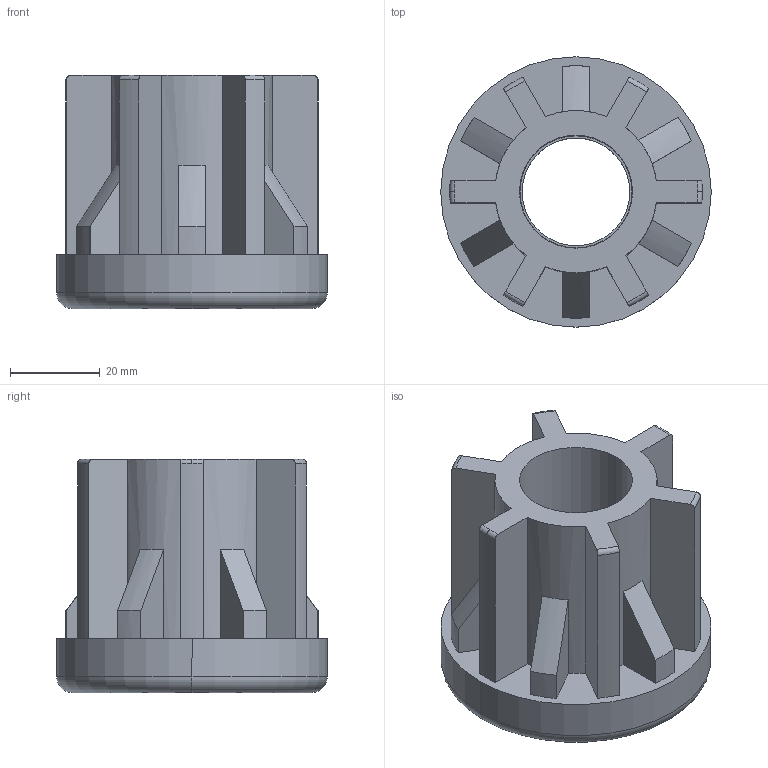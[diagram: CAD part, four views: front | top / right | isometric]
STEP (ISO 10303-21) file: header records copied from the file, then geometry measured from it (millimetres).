
FILE_DESCRIPTION (( 'STEP AP214' ), '1' );
FILE_NAME ('42006460324.STEP', '2020-02-25T17:26:42', ( '' ), ( '' ), 'SwSTEP 2.0', 'SolidWorks 2018', '' );
FILE_SCHEMA (( 'AUTOMOTIVE_DESIGN' ));
Length unit declared in the file: millimetre
Products named in the file (4): 42006460324; BC_M24.stp; 42006460324.stp; corpo tappo M24_60_57.stp
Assembly tree (3 placements, depth 3):
  42006460324
    42006460324.stp
      corpo tappo M24_60_57.stp
      BC_M24.stp
Bounding box: 60.3 x 60.3 x 52 mm (x, y, z)
Volume: 66482.3 mm3; surface area: 25753.9 mm2
Topology: 2 solids, 2 shells, 108 faces, 282 edges, 182 vertices
Faces by surface type: cylinder 46, plane 32, torus 16, cone 8, bspline 6
Entity records: 4400 total; most frequent: CARTESIAN_POINT 1607, DIRECTION 570, ORIENTED_EDGE 564, EDGE_CURVE 282, AXIS2_PLACEMENT_3D 225, VERTEX_POINT 182, VECTOR 120, LINE 120
